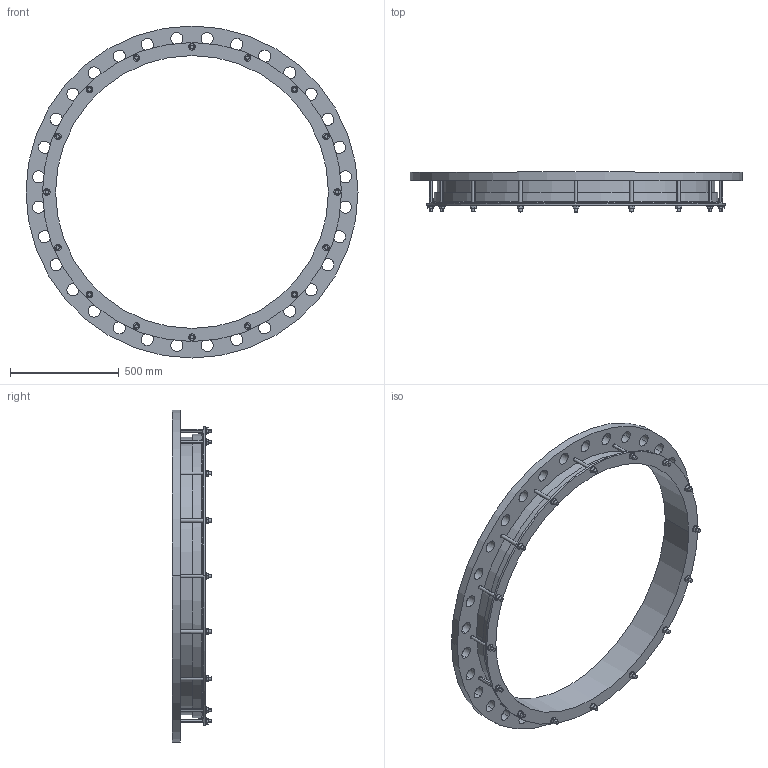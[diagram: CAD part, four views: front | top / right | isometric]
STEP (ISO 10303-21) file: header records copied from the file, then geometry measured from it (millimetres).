
FILE_DESCRIPTION((''),'2;1');
FILE_NAME('1255X1200PN25','2019-04-04T',('mfairey'),('Glynwed Pipe Systems'),'CREO PARAMETRIC BY PTC INC, 2016130','CREO PARAMETRIC BY PTC INC, 2016130','');
FILE_SCHEMA(('CONFIG_CONTROL_DESIGN'));
Length unit declared in the file: millimetre
Products named in the file (1): 1255X1200PN25
Bounding box: 1530 x 182 x 1530 mm (x, y, z)
Volume: 30461116 mm3; surface area: 2993725.8 mm2
Topology: 1 solids, 1 shells, 322 faces, 854 edges, 568 vertices
Faces by surface type: cylinder 168, plane 148, cone 4, torus 2
Entity records: 11414 total; most frequent: CARTESIAN_POINT 2968, DIRECTION 1756, ORIENTED_EDGE 1708, EDGE_CURVE 854, AXIS2_PLACEMENT_3D 648, VERTEX_POINT 568, VECTOR 460, LINE 460
